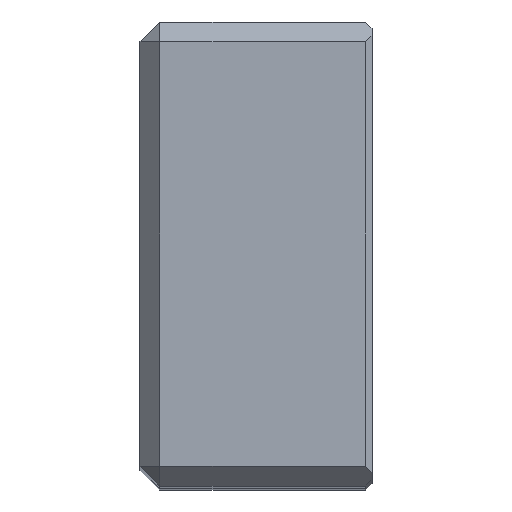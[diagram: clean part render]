
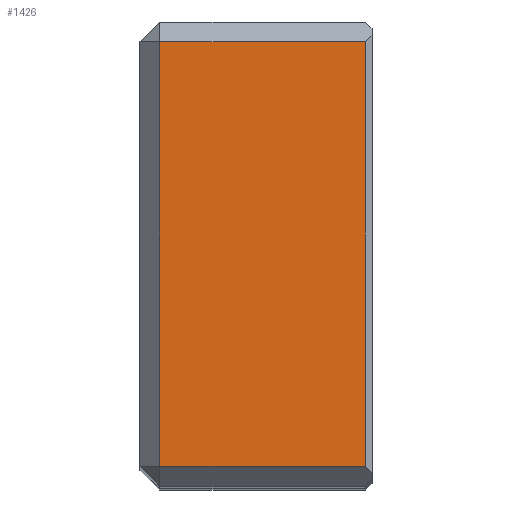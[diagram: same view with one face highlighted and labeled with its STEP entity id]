
A CAD part, top view. The second image highlights one B-rep face of the part: STEP entity #1426.
In plain terms, the highlighted planar face has unit normal (0, 0, 1).
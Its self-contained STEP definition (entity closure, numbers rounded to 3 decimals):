
#137=VERTEX_POINT(' ',#138);
#138=CARTESIAN_POINT('',(3.,32.,0.));
#141=VERTEX_POINT(' ',#142);
#142=CARTESIAN_POINT('',(3.,-32.,0.));
#167=VERTEX_POINT(' ',#168);
#168=CARTESIAN_POINT('',(34.,32.,0.));
#171=VERTEX_POINT(' ',#172);
#172=CARTESIAN_POINT('',(34.,-32.,0.));
#446=LINE('',#447,#448);
#447=CARTESIAN_POINT('',(3.,-51.971,0.));
#448=VECTOR('',#449,1.);
#449=DIRECTION('',(0.,1.,0.));
#450=EDGE_CURVE(' ',#141,#137,#446,.T.);
#566=LINE('',#567,#568);
#567=CARTESIAN_POINT('',(-13.971,32.,0.));
#568=VECTOR('',#569,1.);
#569=DIRECTION('',(1.,0.,0.));
#570=EDGE_CURVE(' ',#137,#167,#566,.T.);
#571=LINE('',#572,#573);
#572=CARTESIAN_POINT('',(34.,37.657,0.));
#573=VECTOR('',#574,1.);
#574=DIRECTION('',(0.,-1.,0.));
#575=EDGE_CURVE(' ',#167,#171,#571,.T.);
#576=LINE('',#577,#578);
#577=CARTESIAN_POINT('',(51.971,-32.,0.));
#578=VECTOR('',#579,1.);
#579=DIRECTION('',(-1.,0.,0.));
#580=EDGE_CURVE(' ',#171,#141,#576,.T.);
#1415=ORIENTED_EDGE('',*,*,#575,.F.);
#1416=ORIENTED_EDGE('',*,*,#570,.F.);
#1417=ORIENTED_EDGE('',*,*,#450,.F.);
#1418=ORIENTED_EDGE('',*,*,#580,.F.);
#1419=EDGE_LOOP('',(#1415,#1416,#1417,#1418));
#1420=FACE_OUTER_BOUND('',#1419,.T.);
#1421=PLANE('',#1422);
#1422=AXIS2_PLACEMENT_3D('',#1423,#1424,#1425);
#1423=CARTESIAN_POINT('',(0.,-35.,0.));
#1424=DIRECTION('',(0.,0.,1.));
#1425=DIRECTION('',(0.,1.,0.));
#1426=ADVANCED_FACE('',(#1420),#1421,.T.);
